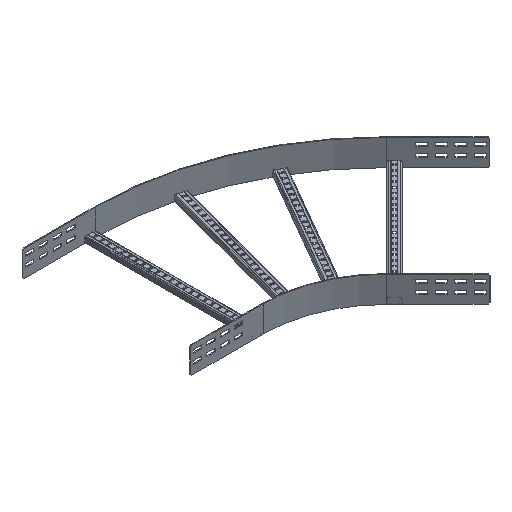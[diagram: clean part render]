
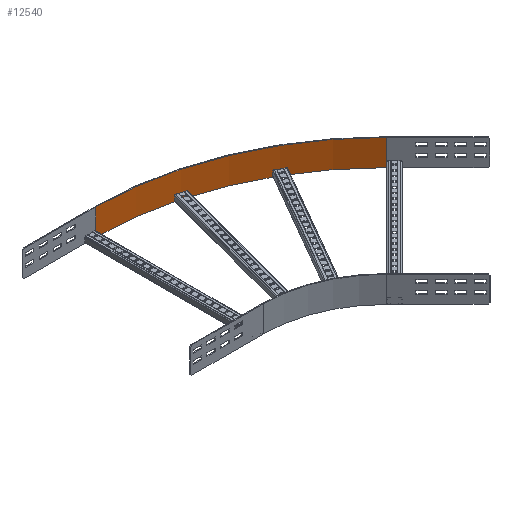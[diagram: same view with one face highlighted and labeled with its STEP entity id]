
A CAD part, isometric view. The second image highlights one B-rep face of the part: STEP entity #12540.
In plain terms, the highlighted cylindrical face has radius 1055 mm (diameter 2110 mm), a partial arc.
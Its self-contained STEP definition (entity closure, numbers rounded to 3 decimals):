
#1390=CARTESIAN_POINT('',(0.,401.,-145.));
#1400=VERTEX_POINT('',#1390);
#1430=CARTESIAN_POINT('',(0.,-654.,-145.));
#1440=DIRECTION('',(0.,0.,1.));
#1450=DIRECTION('',(1.,0.,0.));
#1460=AXIS2_PLACEMENT_3D('',#1430,#1440,#1450);
#1470=CIRCLE('',#1460,1055.);
#1480=CARTESIAN_POINT('',(745.998,91.998,-145.));
#1490=VERTEX_POINT('',#1480);
#1500=EDGE_CURVE('',#1490,#1400,#1470,.T.);
#7780=CARTESIAN_POINT('',(0.,401.,-50.));
#7790=VERTEX_POINT('',#7780);
#7820=CARTESIAN_POINT('',(0.,401.,0.));
#7830=DIRECTION('',(0.,0.,-1.));
#7840=VECTOR('',#7830,1.);
#7850=LINE('',#7820,#7840);
#7860=EDGE_CURVE('',#7790,#1400,#7850,.T.);
#12300=CARTESIAN_POINT('',(0.,-654.,0.));
#12310=DIRECTION('',(0.,0.,1.));
#12320=DIRECTION('',(1.,0.,0.));
#12330=AXIS2_PLACEMENT_3D('',#12300,#12310,#12320);
#12340=CYLINDRICAL_SURFACE('',#12330,1055.);
#12350=CARTESIAN_POINT('',(745.998,91.998,0.));
#12360=DIRECTION('',(0.,0.,1.));
#12370=VECTOR('',#12360,1.);
#12380=LINE('',#12350,#12370);
#12390=CARTESIAN_POINT('',(745.998,91.998,
-50.));
#12400=VERTEX_POINT('',#12390);
#12410=EDGE_CURVE('',#1490,#12400,#12380,.T.);
#12420=ORIENTED_EDGE('',*,*,#12410,.T.);
#12430=ORIENTED_EDGE('',*,*,#1500,.F.);
#12440=ORIENTED_EDGE('',*,*,#7860,.T.);
#12450=CARTESIAN_POINT('',(0.,-654.,-50.));
#12460=DIRECTION('',(0.,0.,1.));
#12470=DIRECTION('',(1.,0.,0.));
#12480=AXIS2_PLACEMENT_3D('',#12450,#12460,#12470);
#12490=CIRCLE('',#12480,1055.);
#12500=EDGE_CURVE('',#12400,#7790,#12490,.T.);
#12510=ORIENTED_EDGE('',*,*,#12500,.T.);
#12520=EDGE_LOOP('',(#12510,#12440,#12430,#12420));
#12530=FACE_OUTER_BOUND('',#12520,.T.);
#12540=ADVANCED_FACE('',(#12530),#12340,.F.);
